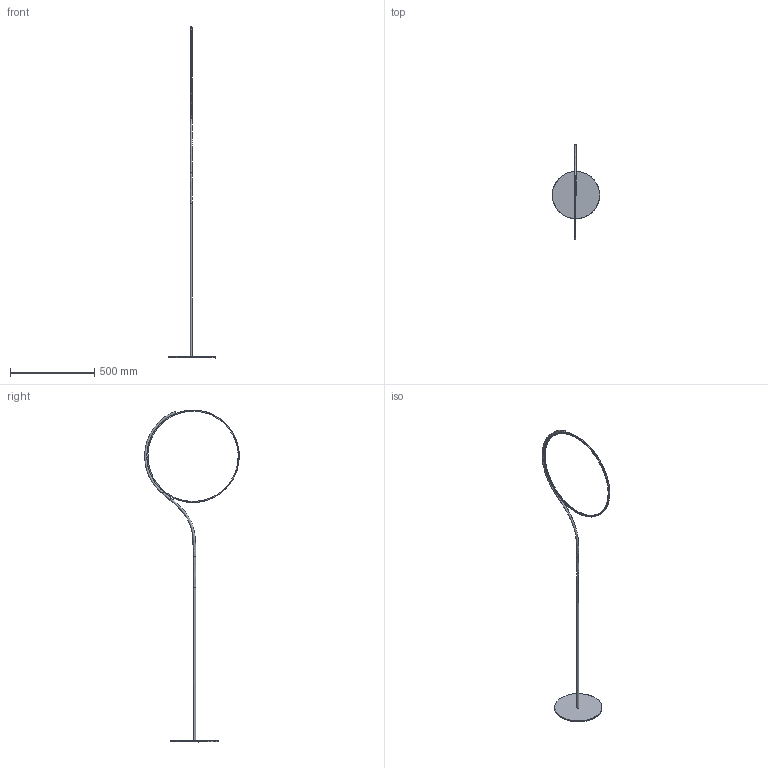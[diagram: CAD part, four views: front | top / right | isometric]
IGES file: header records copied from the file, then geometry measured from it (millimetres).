
Global section: file name: \\10.0.10.244\Ufficio Tecnico\SVILUPPO PRODOTTI\3D per sito 2022\poise floor.igs; native system: Rhinoceros ( Apr  4 2016 ); preprocessor: Trout Lake IGES 012 Apr  4 2016; date: 220801.084018; units: millimetre
Bounding box: 279.9 x 560.36 x 1964.96 mm (x, y, z)
Surface area: 287650.1 mm2 (no closed solid volume)
Topology: 0 solids, 0 shells, 20 faces, 58 edges, 53 vertices
Faces by surface type: bspline 20
